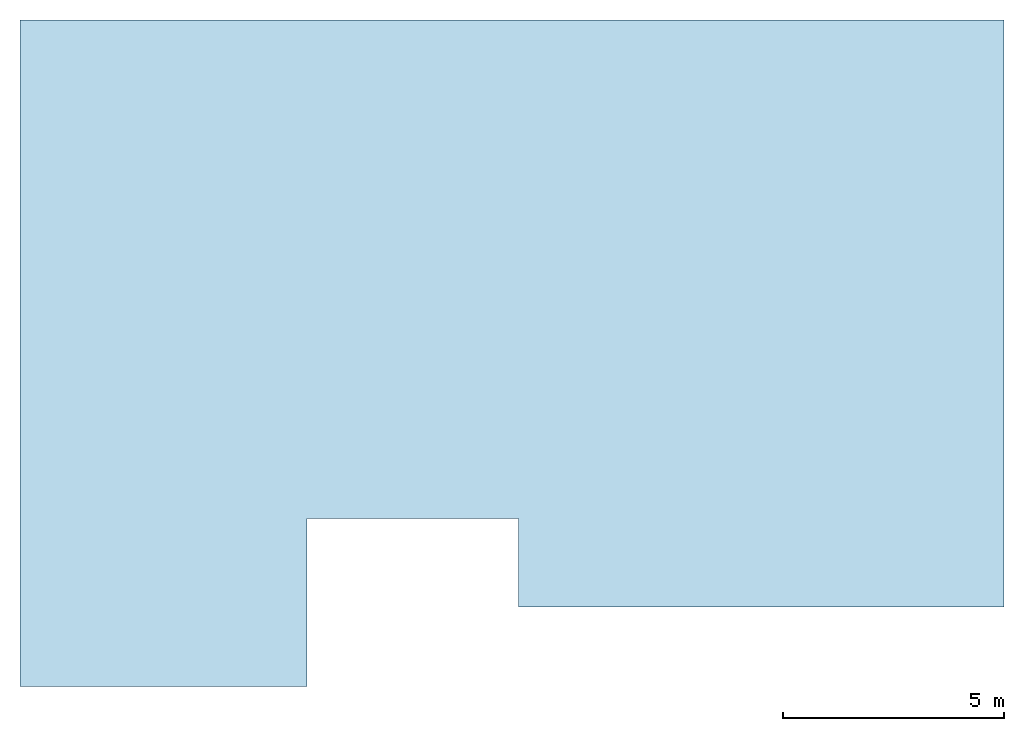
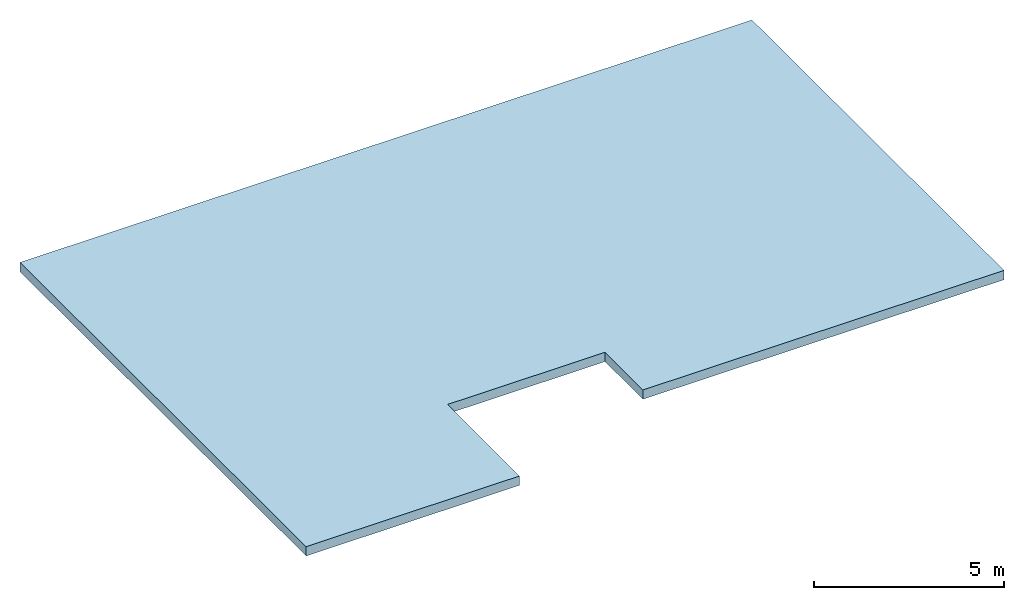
# One storey: 1 slab.
"""IFC2X3 building model written with IfcOpenShell, lengths in metres."""

from ifc_helpers import new_model, entity, si_unit, converted_unit, derived_unit, direction, frame, origin, place, context, subcontext, project, spatial, polyline, outline, extrude, material, layer, layer_set, layer_usage, type_object, element, save


model = new_model("IFC2X3")

# Units and contexts
model_context = context("Model", 3, precision=1e-05, world=origin(), true_north=direction((6.123031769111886e-17, 1.0)))
body_context = subcontext(model_context, "Body", "Model", "MODEL_VIEW")
ifc_project = project(units=[si_unit("LENGTHUNIT", "METRE"), si_unit("AREAUNIT", "SQUARE_METRE"), si_unit("VOLUMEUNIT", "CUBIC_METRE"), converted_unit("PLANEANGLEUNIT", "DEGREE", entity("IfcRatioMeasure", 0.017453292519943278), si_unit("PLANEANGLEUNIT", "RADIAN"), dimensions=[0, 0, 0, 0, 0, 0, 0]), si_unit("MASSUNIT", "GRAM", prefix="KILO"), derived_unit("MASSDENSITYUNIT", [(si_unit("MASSUNIT", "GRAM", prefix="KILO"), 1), (si_unit("LENGTHUNIT", "METRE"), -3)]), derived_unit("MOMENTOFINERTIAUNIT", [(si_unit("LENGTHUNIT", "METRE"), 4)]), si_unit("TIMEUNIT", "SECOND"), si_unit("FREQUENCYUNIT", "HERTZ"), si_unit("THERMODYNAMICTEMPERATUREUNIT", "DEGREE_CELSIUS"), derived_unit("THERMALTRANSMITTANCEUNIT", [(si_unit("MASSUNIT", "GRAM", prefix="KILO"), 1), (si_unit("THERMODYNAMICTEMPERATUREUNIT", "KELVIN"), -1), (si_unit("TIMEUNIT", "SECOND"), -3)]), derived_unit("VOLUMETRICFLOWRATEUNIT", [(si_unit("LENGTHUNIT", "METRE"), 3), (si_unit("TIMEUNIT", "SECOND"), -1)]), derived_unit("MASSFLOWRATEUNIT", [(si_unit("MASSUNIT", "GRAM", prefix="KILO"), 1), (si_unit("TIMEUNIT", "SECOND"), -1)]), derived_unit("ROTATIONALFREQUENCYUNIT", [(si_unit("TIMEUNIT", "SECOND"), -1)]), si_unit("ELECTRICCURRENTUNIT", "AMPERE"), si_unit("ELECTRICVOLTAGEUNIT", "VOLT"), si_unit("POWERUNIT", "WATT"), si_unit("FORCEUNIT", "NEWTON", prefix="KILO"), si_unit("ILLUMINANCEUNIT", "LUX"), si_unit("LUMINOUSFLUXUNIT", "LUMEN"), si_unit("LUMINOUSINTENSITYUNIT", "CANDELA"), derived_unit("USERDEFINED", [(si_unit("MASSUNIT", "GRAM", prefix="KILO"), -1), (si_unit("LENGTHUNIT", "METRE"), -2), (si_unit("TIMEUNIT", "SECOND"), 3), (si_unit("LUMINOUSFLUXUNIT", "LUMEN"), 1)]), derived_unit("SOUNDPOWERUNIT", [(si_unit("MASSUNIT", "GRAM", prefix="KILO"), 1), (si_unit("LENGTHUNIT", "METRE"), 2), (si_unit("TIMEUNIT", "SECOND"), -3)]), derived_unit("SOUNDPRESSUREUNIT", [(si_unit("MASSUNIT", "GRAM", prefix="KILO"), 1), (si_unit("LENGTHUNIT", "METRE"), -1), (si_unit("TIMEUNIT", "SECOND"), -2)]), derived_unit("LINEARVELOCITYUNIT", [(si_unit("LENGTHUNIT", "METRE"), 1), (si_unit("TIMEUNIT", "SECOND"), -1)]), si_unit("PRESSUREUNIT", "PASCAL"), derived_unit("USERDEFINED", [(si_unit("LENGTHUNIT", "METRE"), -2), (si_unit("MASSUNIT", "GRAM", prefix="KILO"), 1), (si_unit("TIMEUNIT", "SECOND"), -2)]), derived_unit("LINEARFORCEUNIT", [(si_unit("MASSUNIT", "GRAM", prefix="KILO"), 1), (si_unit("LENGTHUNIT", "METRE"), 1), (si_unit("TIMEUNIT", "SECOND"), -2), (si_unit("LENGTHUNIT", "METRE"), -1)]), derived_unit("PLANARFORCEUNIT", [(si_unit("MASSUNIT", "GRAM", prefix="KILO"), 1), (si_unit("LENGTHUNIT", "METRE"), 1), (si_unit("TIMEUNIT", "SECOND"), -2), (si_unit("LENGTHUNIT", "METRE"), -2)])], contexts=[model_context])

# Site, building, storey
site_placement = place(None, origin())
site = spatial("IfcSite", under=ifc_project, at=site_placement, Name="Default", CompositionType="ELEMENT")
building_placement = place(site_placement, origin())
building = spatial("IfcBuilding", under=site, at=building_placement, CompositionType="ELEMENT")
storey_placement = place(building_placement, frame((0.0, 0.0, 10.08)))
storey = spatial("IfcBuildingStorey", under=building, at=storey_placement, Name="F2", CompositionType="ELEMENT", Elevation=10.08)

# Slab
ifc_material = material(Name="Default Floor")
ifc_layer = layer(ifc_material, 0.29999999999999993)
ifc_layer_set = layer_set([ifc_layer], Name="Floor:Generic 300mm")
ifc_layer_usage = layer_usage(ifc_layer_set, "AXIS3", "POSITIVE", 0.0)
slab_type = type_object("IfcSlabType", Name="Floor:Generic 300mm", PredefinedType="FLOOR", material=ifc_layer_set)
slab_placement = place(storey_placement, origin())
element("IfcSlab", 1, at=slab_placement, inside=storey, type_object=slab_type, material=ifc_layer_usage, Name="Floor:Generic 300mm", ObjectType="Floor:Generic 300mm", PredefinedType="FLOOR", context=body_context, shape_type="SweptSolid", body=[
    extrude(outline(polyline([(-5.174999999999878, -10.024999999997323), (9.924999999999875, -10.024999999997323), (9.92499999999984, 12.275000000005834), (-3.375000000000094, 12.275000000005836), (-3.375000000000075, 1.2750000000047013), (-1.3749999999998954, 1.2750000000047), (-1.374999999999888, -3.525000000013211), (-5.174999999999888, -3.525000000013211), (-5.174999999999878, -10.024999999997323)])), frame((16.632683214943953, -3.92239298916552, 0.04999999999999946), z_axis=(0.0, 0.0, -1.0), x_axis=(0.0, 1.0, 0.0)), (0.0, 0.0, 1.0), 0.29999999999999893),
])

save(model, "model.ifc")
